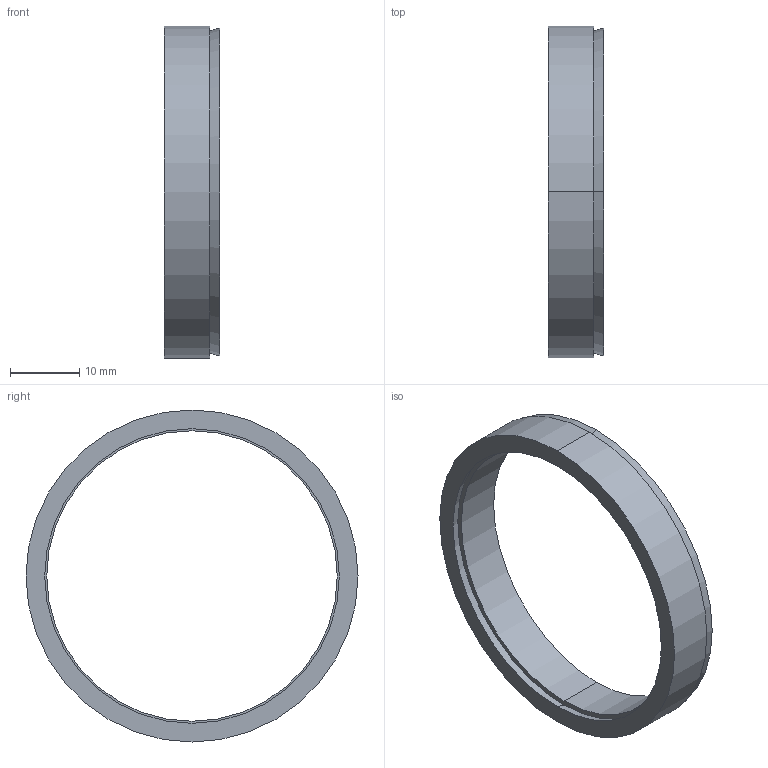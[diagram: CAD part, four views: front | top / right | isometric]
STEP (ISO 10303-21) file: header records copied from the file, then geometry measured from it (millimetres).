
FILE_DESCRIPTION (( 'STEP AP203' ), '1' );
FILE_NAME ('R-42-48.STEP', '2017-11-06T03:09:32', ( 'MYCOM' ), ( '' ), 'SwSTEP 2.0', 'SolidWorks 2015', '' );
FILE_SCHEMA (( 'CONFIG_CONTROL_DESIGN' ));
Length unit declared in the file: millimetre
Products named in the file (1): R-42-48
Bounding box: 8 x 48 x 48 mm (x, y, z)
Surface area: 4781.3 mm2 (no closed solid volume)
Topology: 0 solids, 2 shells, 12 faces, 24 edges, 16 vertices
Faces by surface type: cone 4, cylinder 4, plane 4
Entity records: 406 total; most frequent: DIRECTION 66, CARTESIAN_POINT 53, ORIENTED_EDGE 48, AXIS2_PLACEMENT_3D 29, EDGE_CURVE 24, CIRCLE 16, VERTEX_POINT 16, EDGE_LOOP 16
